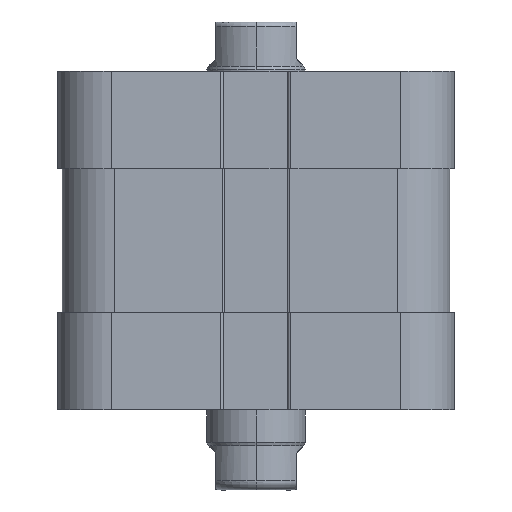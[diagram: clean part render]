
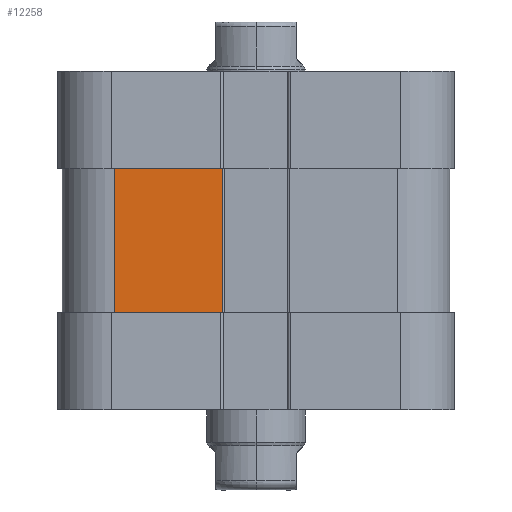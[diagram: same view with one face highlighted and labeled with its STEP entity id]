
A CAD part, left-side view. The second image highlights one B-rep face of the part: STEP entity #12258.
In plain terms, the highlighted planar face has unit normal (-1, 0, 0).
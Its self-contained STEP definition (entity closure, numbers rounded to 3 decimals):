
#7980=CARTESIAN_POINT('',(-25.25,-3.1,-11.6));
#7981=VERTEX_POINT('',#7980);
#7989=CARTESIAN_POINT('',(-25.25,14.5,-11.6));
#7990=VERTEX_POINT('',#7989);
#7991=CARTESIAN_POINT('',(-25.25,14.5,-11.6));
#7992=DIRECTION('',(0.0,-1.0,0.0));
#7993=VECTOR('',#7992,17.6);
#7994=LINE('',#7991,#7993);
#7995=EDGE_CURVE('',#7990,#7981,#7994,.T.);
#9528=CARTESIAN_POINT('',(-25.25,14.5,11.8));
#9529=VERTEX_POINT('',#9528);
#9537=CARTESIAN_POINT('',(-25.25,-3.1,11.8));
#9538=VERTEX_POINT('',#9537);
#9539=CARTESIAN_POINT('',(-25.25,-3.1,11.8));
#9540=DIRECTION('',(0.0,1.0,0.0));
#9541=VECTOR('',#9540,17.6);
#9542=LINE('',#9539,#9541);
#9543=EDGE_CURVE('',#9538,#9529,#9542,.T.);
#12176=CARTESIAN_POINT('',(-25.25,-3.1,11.8));
#12177=DIRECTION('',(0.0,0.0,-1.0));
#12178=VECTOR('',#12177,23.4);
#12179=LINE('',#12176,#12178);
#12180=EDGE_CURVE('',#9538,#7981,#12179,.T.);
#12242=CARTESIAN_POINT('',(-25.25,-31.5,-11.6));
#12243=DIRECTION('',(-1.0,0.0,0.0));
#12244=DIRECTION('',(0.0,0.0,1.0));
#12245=AXIS2_PLACEMENT_3D('',#12242,#12243,#12244);
#12246=PLANE('',#12245);
#12247=ORIENTED_EDGE('',*,*,#12180,.F.);
#12248=ORIENTED_EDGE('',*,*,#9543,.T.);
#12249=CARTESIAN_POINT('',(-25.25,14.5,-11.6));
#12250=DIRECTION('',(0.0,0.0,1.0));
#12251=VECTOR('',#12250,23.4);
#12252=LINE('',#12249,#12251);
#12253=EDGE_CURVE('',#7990,#9529,#12252,.T.);
#12254=ORIENTED_EDGE('',*,*,#12253,.F.);
#12255=ORIENTED_EDGE('',*,*,#7995,.T.);
#12256=EDGE_LOOP('',(#12247,#12248,#12254,#12255));
#12257=FACE_OUTER_BOUND('',#12256,.T.);
#12258=ADVANCED_FACE('',(#12257),#12246,.T.);
